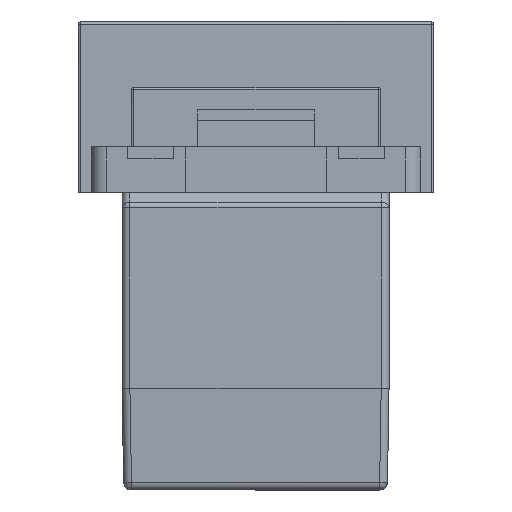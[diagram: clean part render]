
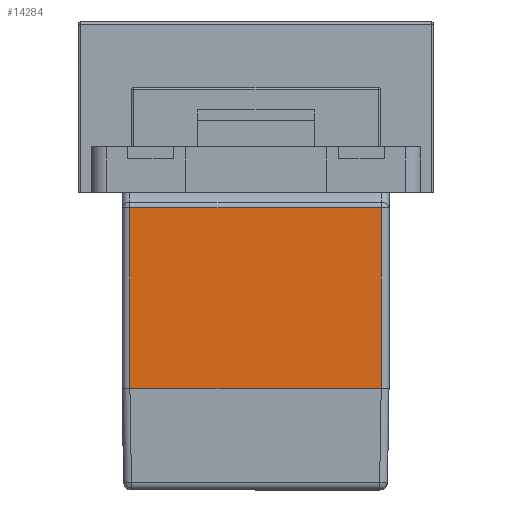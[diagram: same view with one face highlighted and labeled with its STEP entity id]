
A CAD part, front view. The second image highlights one B-rep face of the part: STEP entity #14284.
In plain terms, the highlighted free-form (B-spline) face has degree [1, 1] with [2, 2] control points.
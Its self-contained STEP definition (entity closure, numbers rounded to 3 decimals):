
#11785 = VERTEX_POINT('',#11786);
#11786 = CARTESIAN_POINT('',(6.473,16.5,
    21.757));
#12055 = VERTEX_POINT('',#12056);
#12056 = CARTESIAN_POINT('',(6.473,0.5,
    21.757));
#12110 = EDGE_CURVE('',#12055,#11785,#12111,.T.);
#12111 = B_SPLINE_CURVE_WITH_KNOTS('',5,(#12112,#12113,#12114,#12115,
    #12116,#12117),.UNSPECIFIED.,.F.,.F.,(6,6),(0.,16.),
  .PIECEWISE_BEZIER_KNOTS.);
#12112 = CARTESIAN_POINT('',(6.473,0.5,21.757));
#12113 = CARTESIAN_POINT('',(6.473,3.7,
    21.757));
#12114 = CARTESIAN_POINT('',(6.473,6.9,
    21.757));
#12115 = CARTESIAN_POINT('',(6.473,10.1,
    21.757));
#12116 = CARTESIAN_POINT('',(6.473,13.3,
    21.757));
#12117 = CARTESIAN_POINT('',(6.473,16.5,
    21.757));
#13159 = VERTEX_POINT('',#13160);
#13160 = CARTESIAN_POINT('',(17.97,16.5,
    21.757));
#13318 = VERTEX_POINT('',#13319);
#13319 = CARTESIAN_POINT('',(17.97,0.5,21.757));
#13409 = EDGE_CURVE('',#13318,#12055,#13410,.T.);
#13410 = B_SPLINE_CURVE_WITH_KNOTS('',5,(#13411,#13412,#13413,#13414,
    #13415,#13416),.UNSPECIFIED.,.F.,.F.,(6,6),(0.,11.497),
  .PIECEWISE_BEZIER_KNOTS.);
#13411 = CARTESIAN_POINT('',(17.97,0.5,21.757));
#13412 = CARTESIAN_POINT('',(15.671,0.5,21.757));
#13413 = CARTESIAN_POINT('',(13.371,0.5,21.757));
#13414 = CARTESIAN_POINT('',(11.072,0.5,21.757));
#13415 = CARTESIAN_POINT('',(8.773,0.5,21.757));
#13416 = CARTESIAN_POINT('',(6.473,0.5,21.757));
#14050 = EDGE_CURVE('',#13159,#13318,#14051,.T.);
#14051 = B_SPLINE_CURVE_WITH_KNOTS('',5,(#14052,#14053,#14054,#14055,
    #14056,#14057),.UNSPECIFIED.,.F.,.F.,(6,6),(0.,16.),
  .PIECEWISE_BEZIER_KNOTS.);
#14052 = CARTESIAN_POINT('',(17.97,16.5,
    21.757));
#14053 = CARTESIAN_POINT('',(17.97,13.3,
    21.757));
#14054 = CARTESIAN_POINT('',(17.97,10.1,
    21.757));
#14055 = CARTESIAN_POINT('',(17.97,6.9,
    21.757));
#14056 = CARTESIAN_POINT('',(17.97,3.7,
    21.757));
#14057 = CARTESIAN_POINT('',(17.97,0.5,21.757));
#14161 = EDGE_CURVE('',#11785,#13159,#14162,.T.);
#14162 = B_SPLINE_CURVE_WITH_KNOTS('',5,(#14163,#14164,#14165,#14166,
    #14167,#14168),.UNSPECIFIED.,.F.,.F.,(6,6),(0.,11.497),
  .PIECEWISE_BEZIER_KNOTS.);
#14163 = CARTESIAN_POINT('',(6.473,16.5,
    21.757));
#14164 = CARTESIAN_POINT('',(8.773,16.5,
    21.757));
#14165 = CARTESIAN_POINT('',(11.072,16.5,
    21.757));
#14166 = CARTESIAN_POINT('',(13.371,16.5,
    21.757));
#14167 = CARTESIAN_POINT('',(15.671,16.5,
    21.757));
#14168 = CARTESIAN_POINT('',(17.97,16.5,
    21.757));
#14284 = ADVANCED_FACE('',(#14285),#14291,.T.);
#14285 = FACE_BOUND('',#14286,.T.);
#14286 = EDGE_LOOP('',(#14287,#14288,#14289,#14290));
#14287 = ORIENTED_EDGE('',*,*,#13409,.F.);
#14288 = ORIENTED_EDGE('',*,*,#14050,.F.);
#14289 = ORIENTED_EDGE('',*,*,#14161,.F.);
#14290 = ORIENTED_EDGE('',*,*,#12110,.F.);
#14291 = B_SPLINE_SURFACE_WITH_KNOTS('',1,1,(
    (#14292,#14293)
    ,(#14294,#14295
    )),.UNSPECIFIED.,.F.,.F.,.F.,(2,2),(2,2),(0.,1.),(0.,
    1.392),.PIECEWISE_BEZIER_KNOTS.);
#14292 = CARTESIAN_POINT('',(6.473,0.5,
    21.757));
#14293 = CARTESIAN_POINT('',(6.473,16.5,
    21.757));
#14294 = CARTESIAN_POINT('',(17.97,0.5,
    21.757));
#14295 = CARTESIAN_POINT('',(17.97,16.5,
    21.757));
